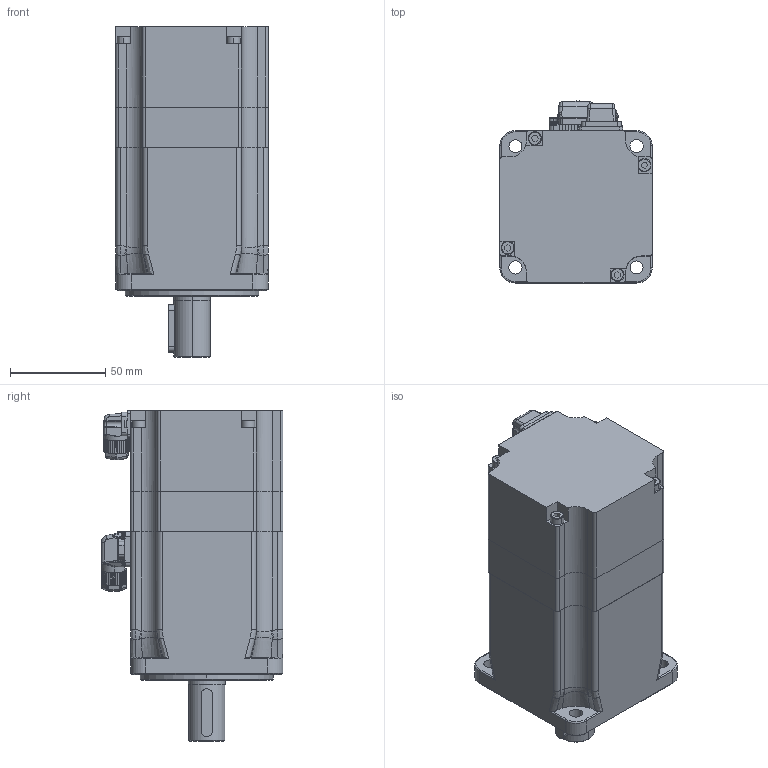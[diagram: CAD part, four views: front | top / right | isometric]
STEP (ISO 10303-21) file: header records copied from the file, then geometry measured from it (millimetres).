
FILE_DESCRIPTION (( 'STEP AP214' ), '1' );
FILE_NAME ('80-750WÉ²³µ.STEP', '2023-11-03T12:20:50', ( 'muse' ), ( 'muse' ), 'SwSTEP 2.0', 'SolidWorks 2020', '' );
FILE_SCHEMA (( 'AUTOMOTIVE_DESIGN' ));
Length unit declared in the file: millimetre
Products named in the file (11): JM30伺服电机动力插头4+2P-小型斜口-散装(不含端子).stp; 伺服电机动力焊线底座4+2P小型斜口带线带刹车线(1).stp; JM30伺服电机编码器焊线式底座7P小型斜口不带线(1).stp; 80す瑩; 80綴傷裔; JM30伺服电机编码器插头7P-小型斜口-散装(不含端子).stp; 80綴欶; 80儂旯; 80-750W价陬; 蹟佪.stp; 80粣.stp
Assembly tree (13 placements, depth 2):
  80-750W价陬
    80綴傷裔
    80綴欶
    80儂旯
    80す瑩
    80粣.stp
    蹟佪.stp  x4
    JM30伺服电机编码器插头7P-小型斜口-散装(不含端子).stp
    JM30伺服电机编码器焊线式底座7P小型斜口不带线(1).stp
    JM30伺服电机动力插头4+2P-小型斜口-散装(不含端子).stp
    伺服电机动力焊线底座4+2P小型斜口带线带刹车线(1).stp
Bounding box: 80 x 95.47 x 173.5 mm (x, y, z)
Volume: 795318.2 mm3; surface area: 100605.6 mm2
Topology: 13 solids, 30 shells, 3576 faces, 9417 edges, 5991 vertices
Faces by surface type: plane 1967, cylinder 963, cone 311, bspline 174, torus 161
Entity records: 128434 total; most frequent: CARTESIAN_POINT 43358, ORIENTED_EDGE 18508, DIRECTION 16418, EDGE_CURVE 9254, VERTEX_POINT 5915, LINE 5680, VECTOR 5680, AXIS2_PLACEMENT_3D 5369
